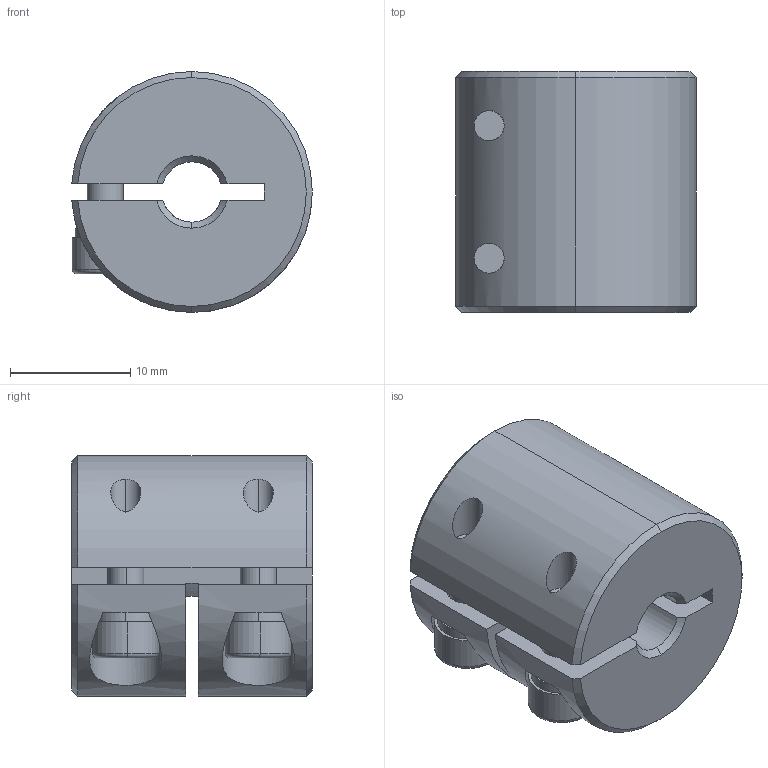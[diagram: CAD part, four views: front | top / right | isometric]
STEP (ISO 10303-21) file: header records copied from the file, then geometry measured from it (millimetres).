
FILE_DESCRIPTION (( 'STEP AP203' ), '1' );
FILE_NAME ('LL-B-D20L20-5-5.STEP', '2021-11-03T05:22:38', ( '' ), ( '' ), 'SwSTEP 2.0', 'SolidWorks 2018', '' );
FILE_SCHEMA (( 'CONFIG_CONTROL_DESIGN' ));
Length unit declared in the file: millimetre
Products named in the file (1): LL-B-D20L20-5-5
Bounding box: 19.98 x 20 x 20 mm (x, y, z)
Volume: 5359.4 mm3; surface area: 3124.9 mm2
Topology: 1 solids, 1 shells, 110 faces, 283 edges, 177 vertices
Faces by surface type: plane 51, cylinder 39, cone 16, torus 4
Entity records: 3593 total; most frequent: CARTESIAN_POINT 801, DIRECTION 594, ORIENTED_EDGE 558, EDGE_CURVE 279, AXIS2_PLACEMENT_3D 230, VERTEX_POINT 177, LINE 134, VECTOR 134
